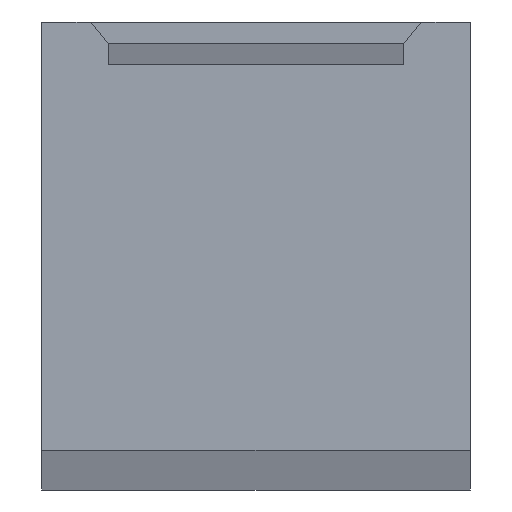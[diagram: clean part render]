
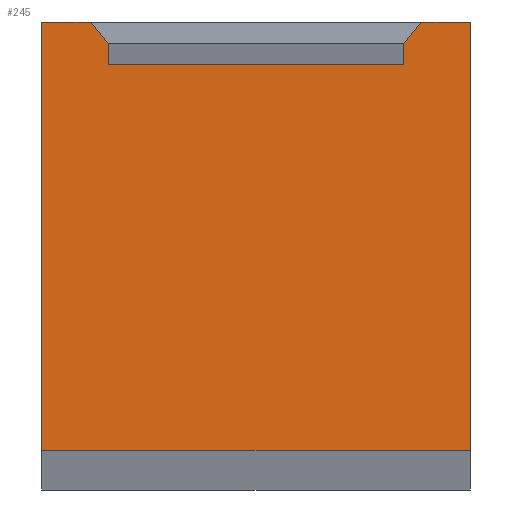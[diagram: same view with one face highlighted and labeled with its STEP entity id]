
A CAD part, top view. The second image highlights one B-rep face of the part: STEP entity #245.
In plain terms, the highlighted planar face has unit normal (0, 0, 1).
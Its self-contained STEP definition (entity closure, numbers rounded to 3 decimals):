
#7 = EDGE_CURVE ( 'NONE', #462, #322, #638, .T. ) ;
#13 = VECTOR ( 'NONE', #306, 1000. ) ;
#18 = ORIENTED_EDGE ( 'NONE', *, *, #350, .F. ) ;
#30 = LINE ( 'NONE', #131, #284 ) ;
#34 = VERTEX_POINT ( 'NONE', #437 ) ;
#59 = EDGE_CURVE ( 'NONE', #132, #76, #616, .T. ) ;
#67 = EDGE_LOOP ( 'NONE', ( #632, #455, #439, #356, #84, #452, #364, #504, #18, #591 ) ) ;
#69 = CARTESIAN_POINT ( 'NONE',  ( 7.7, 10., 530. ) ) ;
#76 = VERTEX_POINT ( 'NONE', #271 ) ;
#79 = EDGE_CURVE ( 'NONE', #322, #368, #596, .T. ) ;
#84 = ORIENTED_EDGE ( 'NONE', *, *, #643, .T. ) ;
#87 = CARTESIAN_POINT ( 'NONE',  ( 6.9, 9., 530. ) ) ;
#113 = DIRECTION ( 'NONE',  ( -1., 0., 0. ) ) ;
#123 = CARTESIAN_POINT ( 'NONE',  ( 7.7, 10., 530. ) ) ;
#131 = CARTESIAN_POINT ( 'NONE',  ( -10., 10., 530. ) ) ;
#132 = VERTEX_POINT ( 'NONE', #69 ) ;
#134 = EDGE_CURVE ( 'NONE', #132, #395, #481, .T. ) ;
#137 = LINE ( 'NONE', #457, #13 ) ;
#150 = EDGE_CURVE ( 'NONE', #160, #302, #600, .T. ) ;
#152 = VECTOR ( 'NONE', #563, 1000. ) ;
#154 = LINE ( 'NONE', #172, #287 ) ;
#155 = VERTEX_POINT ( 'NONE', #238 ) ;
#160 = VERTEX_POINT ( 'NONE', #628 ) ;
#170 = CARTESIAN_POINT ( 'NONE',  ( -10., -10., 530. ) ) ;
#172 = CARTESIAN_POINT ( 'NONE',  ( -7.7, 10., 530. ) ) ;
#188 = CARTESIAN_POINT ( 'NONE',  ( -10., 10., 530. ) ) ;
#203 = EDGE_CURVE ( 'NONE', #302, #34, #30, .T. ) ;
#216 = CARTESIAN_POINT ( 'NONE',  ( -10., 10., 530. ) ) ;
#222 = DIRECTION ( 'NONE',  ( -0.625, 0.781, 0. ) ) ;
#238 = CARTESIAN_POINT ( 'NONE',  ( -7.7, 10., 530. ) ) ;
#245 = ADVANCED_FACE ( 'NONE', ( #403 ), #528, .T. ) ;
#247 = AXIS2_PLACEMENT_3D ( 'NONE', #432, #517, #269 ) ;
#264 = CARTESIAN_POINT ( 'NONE',  ( -10., -10., 530. ) ) ;
#265 = EDGE_CURVE ( 'NONE', #395, #462, #283, .T. ) ;
#269 = DIRECTION ( 'NONE',  ( 1., 0., 0. ) ) ;
#271 = CARTESIAN_POINT ( 'NONE',  ( 10., 10., 530. ) ) ;
#283 = LINE ( 'NONE', #87, #152 ) ;
#284 = VECTOR ( 'NONE', #574, 1000. ) ;
#287 = VECTOR ( 'NONE', #222, 1000. ) ;
#302 = VERTEX_POINT ( 'NONE', #264 ) ;
#306 = DIRECTION ( 'NONE',  ( 0., -1., 0. ) ) ;
#314 = CARTESIAN_POINT ( 'NONE',  ( -6.9, 8., 530. ) ) ;
#322 = VERTEX_POINT ( 'NONE', #635 ) ;
#325 = DIRECTION ( 'NONE',  ( 0., 1., 0. ) ) ;
#331 = VECTOR ( 'NONE', #605, 1000. ) ;
#344 = VECTOR ( 'NONE', #564, 1000. ) ;
#350 = EDGE_CURVE ( 'NONE', #76, #160, #137, .T. ) ;
#356 = ORIENTED_EDGE ( 'NONE', *, *, #79, .T. ) ;
#364 = ORIENTED_EDGE ( 'NONE', *, *, #203, .F. ) ;
#368 = VERTEX_POINT ( 'NONE', #554 ) ;
#395 = VERTEX_POINT ( 'NONE', #607 ) ;
#403 = FACE_OUTER_BOUND ( 'NONE', #67, .T. ) ;
#432 = CARTESIAN_POINT ( 'NONE',  ( 0., 0., 530. ) ) ;
#435 = DIRECTION ( 'NONE',  ( 1., 0., 0. ) ) ;
#437 = CARTESIAN_POINT ( 'NONE',  ( -10., 10., 530. ) ) ;
#439 = ORIENTED_EDGE ( 'NONE', *, *, #7, .T. ) ;
#447 = LINE ( 'NONE', #216, #331 ) ;
#452 = ORIENTED_EDGE ( 'NONE', *, *, #542, .F. ) ;
#455 = ORIENTED_EDGE ( 'NONE', *, *, #265, .T. ) ;
#457 = CARTESIAN_POINT ( 'NONE',  ( 10., 10., 530. ) ) ;
#462 = VERTEX_POINT ( 'NONE', #476 ) ;
#472 = VECTOR ( 'NONE', #325, 1000. ) ;
#476 = CARTESIAN_POINT ( 'NONE',  ( 6.9, 8., 530. ) ) ;
#481 = LINE ( 'NONE', #123, #344 ) ;
#491 = VECTOR ( 'NONE', #435, 1000. ) ;
#504 = ORIENTED_EDGE ( 'NONE', *, *, #150, .F. ) ;
#517 = DIRECTION ( 'NONE',  ( 0., 0., 1. ) ) ;
#528 = PLANE ( 'NONE',  #247 ) ;
#542 = EDGE_CURVE ( 'NONE', #34, #155, #447, .T. ) ;
#554 = CARTESIAN_POINT ( 'NONE',  ( -6.9, 9., 530. ) ) ;
#563 = DIRECTION ( 'NONE',  ( 0., -1., 0. ) ) ;
#564 = DIRECTION ( 'NONE',  ( -0.625, -0.781, 0. ) ) ;
#574 = DIRECTION ( 'NONE',  ( 0., 1., 0. ) ) ;
#587 = VECTOR ( 'NONE', #113, 1000. ) ;
#591 = ORIENTED_EDGE ( 'NONE', *, *, #59, .F. ) ;
#596 = LINE ( 'NONE', #631, #472 ) ;
#600 = LINE ( 'NONE', #170, #587 ) ;
#605 = DIRECTION ( 'NONE',  ( 1., 0., 0. ) ) ;
#607 = CARTESIAN_POINT ( 'NONE',  ( 6.9, 9., 530. ) ) ;
#612 = DIRECTION ( 'NONE',  ( -1., 0., 0. ) ) ;
#616 = LINE ( 'NONE', #188, #491 ) ;
#625 = VECTOR ( 'NONE', #612, 1000. ) ;
#628 = CARTESIAN_POINT ( 'NONE',  ( 10., -10., 530. ) ) ;
#631 = CARTESIAN_POINT ( 'NONE',  ( -6.9, 9., 530. ) ) ;
#632 = ORIENTED_EDGE ( 'NONE', *, *, #134, .T. ) ;
#635 = CARTESIAN_POINT ( 'NONE',  ( -6.9, 8., 530. ) ) ;
#638 = LINE ( 'NONE', #314, #625 ) ;
#643 = EDGE_CURVE ( 'NONE', #368, #155, #154, .T. ) ;
